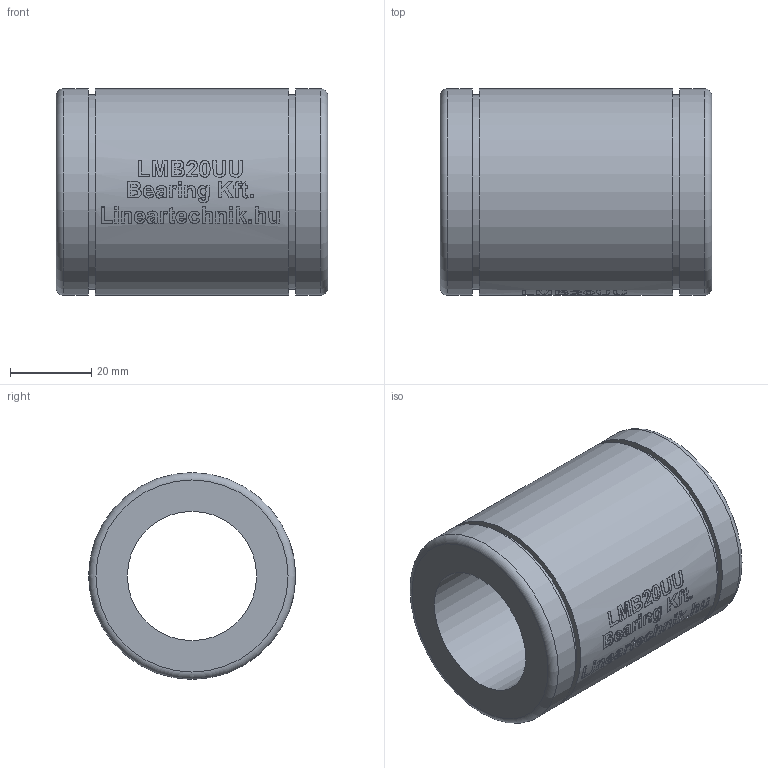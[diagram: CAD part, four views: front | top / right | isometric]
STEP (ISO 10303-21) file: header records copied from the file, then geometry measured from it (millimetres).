
FILE_DESCRIPTION(/* description */ (''),/* implementation_level */ '2;1');
FILE_NAME(/* name */ 'LMB20UU',/* time_stamp */ '2019-05-16T15:31:29+02:00',/* author */ ('VĂ©gh MĂˇtĂ©'),/* organization */ ('Bearing Kft'),/* preprocessor_version */ 'ST-DEVELOPER v16.7',/* originating_system */ 'DEX',/* authorisation */ $);
FILE_SCHEMA (('AUTOMOTIVE_DESIGN {1 0 10303 214 3 1 1}'));
Length unit declared in the file: millimetre
Products named in the file (1): LMB20UU
Bounding box: 66.67 x 50.8 x 50.8 mm (x, y, z)
Volume: 81341 mm3; surface area: 20431.6 mm2
Topology: 1 solids, 1 shells, 310 faces, 769 edges, 513 vertices
Faces by surface type: plane 157, bspline 97, cylinder 54, torus 2
Full cylindrical faces by diameter (mm): 31.75 x1, 47.904 x2, 50.8 x3
Entity records: 20516 total; most frequent: CARTESIAN_POINT 13672, ORIENTED_EDGE 1512, DIRECTION 1133, EDGE_CURVE 756, VERTEX_POINT 511, LINE 411, VECTOR 411, EDGE_LOOP 375
